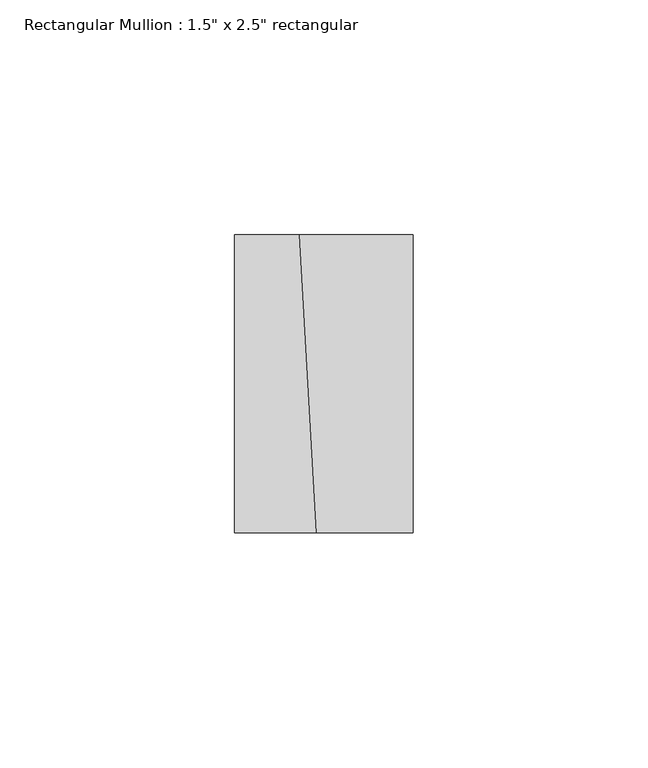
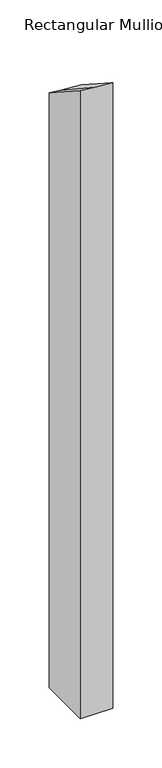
"""IFC4 building model written with IfcOpenShell, lengths in millimetres: member geometry."""

from ifc_helpers import new_model, si_unit, origin, place, context, project, spatial, faceted_brep, source, transform, mapped, element, save


def member_4b2d0bd8(model_context):
    return source(origin(), model_context, "Body", "Brep", [
        faceted_brep([(19.05, 31.75, -796.7954998), (19.05, -31.75, -796.7954998), (-19.05, -31.75, -796.7954998), (-19.05, 31.75, -796.7954998), (-19.05, 31.75, -56.2479066), (-5.2064683, 31.75, -57.9103093), (19.05, 31.75, -59.3629778), (-19.05, -31.75, -15.1820962), (19.05, -31.75, -18.5170449), (-1.5538518, -31.75, -17.2831239)], [[[0, 1, 2, 3]], [[4, 5, 6, 0, 3]], [[7, 4, 3, 2]], [[8, 9, 7, 2, 1]], [[6, 8, 1, 0]], [[6, 5, 9, 8]], [[5, 4, 7, 9]]]),
    ])


if __name__ == "__main__":
    model = new_model("IFC4")
    model_context = context("Model", 3, world=origin())
    ifc_project = project(units=[si_unit("LENGTHUNIT", "METRE", prefix="MILLI")], contexts=[model_context])
    site = spatial("IfcSite", under=ifc_project)
    building = spatial("IfcBuilding", under=site)
    placement = place(None, origin())
    member_shape = member_4b2d0bd8(model_context)
    element("IfcMember", 1, ObjectType="Rectangular Mullion : 1.5\" x 2.5\" rectangular", at=placement, inside=building, context=model_context, shape_type="MappedRepresentation", body=[
        mapped(member_shape, transform((0.0, 0.0, 0.0), x_axis=(1.0, 0.0, 0.0), y_axis=(0.0, 1.0, 0.0), z_axis=(0.0, 0.0, 1.0))),
    ])
    save(model, "model.ifc")
